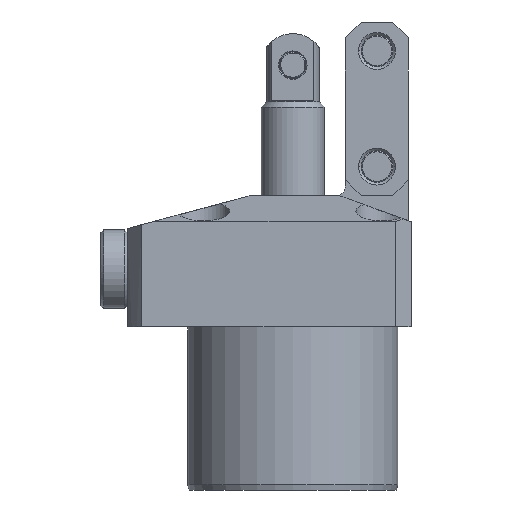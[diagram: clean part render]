
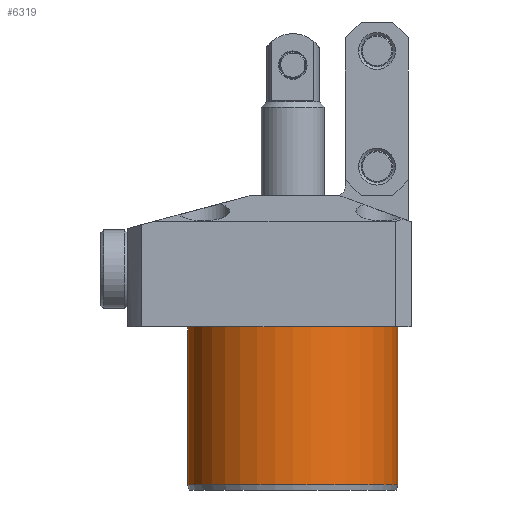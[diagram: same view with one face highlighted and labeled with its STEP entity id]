
A CAD part, front view. The second image highlights one B-rep face of the part: STEP entity #6319.
In plain terms, the highlighted cylindrical face has radius 20 mm (diameter 40 mm), a partial arc.
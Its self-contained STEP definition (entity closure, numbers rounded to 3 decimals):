
#28 = EDGE_LOOP ( 'NONE', ( #8320, #4225, #10451, #4466 ) ) ;
#39 = CIRCLE ( 'NONE', #3386, 20. ) ;
#865 = DIRECTION ( 'NONE',  ( 0., 0., 1. ) ) ;
#1218 = FACE_OUTER_BOUND ( 'NONE', #28, .T. ) ;
#2185 = LINE ( 'NONE', #14329, #16446 ) ;
#3067 = CARTESIAN_POINT ( 'NONE',  ( 20., 0., 0. ) ) ;
#3386 = AXIS2_PLACEMENT_3D ( 'NONE', #3637, #13327, #5032 ) ;
#3637 = CARTESIAN_POINT ( 'NONE',  ( 0., 0., 0. ) ) ;
#4001 = DIRECTION ( 'NONE',  ( 0., 0., 1. ) ) ;
#4225 = ORIENTED_EDGE ( 'NONE', *, *, #17864, .T. ) ;
#4466 = ORIENTED_EDGE ( 'NONE', *, *, #12373, .T. ) ;
#4482 = CYLINDRICAL_SURFACE ( 'NONE', #7274, 20. ) ;
#5032 = DIRECTION ( 'NONE',  ( 1., 0., 0. ) ) ;
#6319 = ADVANCED_FACE ( 'NONE', ( #1218 ), #4482, .T. ) ;
#6998 = CARTESIAN_POINT ( 'NONE',  ( -20., 0., -31. ) ) ;
#7274 = AXIS2_PLACEMENT_3D ( 'NONE', #13616, #4001, #15010 ) ;
#8320 = ORIENTED_EDGE ( 'NONE', *, *, #11009, .F. ) ;
#8750 = CARTESIAN_POINT ( 'NONE',  ( -20., 0., -30. ) ) ;
#8905 = DIRECTION ( 'NONE',  ( 0., 0., 1. ) ) ;
#9166 = CARTESIAN_POINT ( 'NONE',  ( 0., 0., -30. ) ) ;
#10451 = ORIENTED_EDGE ( 'NONE', *, *, #17122, .T. ) ;
#10566 = DIRECTION ( 'NONE',  ( -1., 0., 0. ) ) ;
#11009 = EDGE_CURVE ( 'NONE', #14656, #14405, #14336, .T. ) ;
#12192 = AXIS2_PLACEMENT_3D ( 'NONE', #9166, #865, #10566 ) ;
#12373 = EDGE_CURVE ( 'NONE', #15112, #14405, #39, .T. ) ;
#12531 = VERTEX_POINT ( 'NONE', #14942 ) ;
#13234 = CIRCLE ( 'NONE', #12192, 20. ) ;
#13277 = CARTESIAN_POINT ( 'NONE',  ( -20., 0., 0. ) ) ;
#13327 = DIRECTION ( 'NONE',  ( 0., 0., -1. ) ) ;
#13616 = CARTESIAN_POINT ( 'NONE',  ( 0., 0., -31. ) ) ;
#14329 = CARTESIAN_POINT ( 'NONE',  ( 20., 0., -31. ) ) ;
#14336 = LINE ( 'NONE', #6998, #17537 ) ;
#14405 = VERTEX_POINT ( 'NONE', #13277 ) ;
#14656 = VERTEX_POINT ( 'NONE', #8750 ) ;
#14942 = CARTESIAN_POINT ( 'NONE',  ( 20., 0., -30. ) ) ;
#15010 = DIRECTION ( 'NONE',  ( 1., 0., 0. ) ) ;
#15112 = VERTEX_POINT ( 'NONE', #3067 ) ;
#15399 = DIRECTION ( 'NONE',  ( 0., 0., 1. ) ) ;
#16446 = VECTOR ( 'NONE', #8905, 1000. ) ;
#17122 = EDGE_CURVE ( 'NONE', #12531, #15112, #2185, .T. ) ;
#17537 = VECTOR ( 'NONE', #15399, 1000. ) ;
#17864 = EDGE_CURVE ( 'NONE', #14656, #12531, #13234, .T. ) ;
